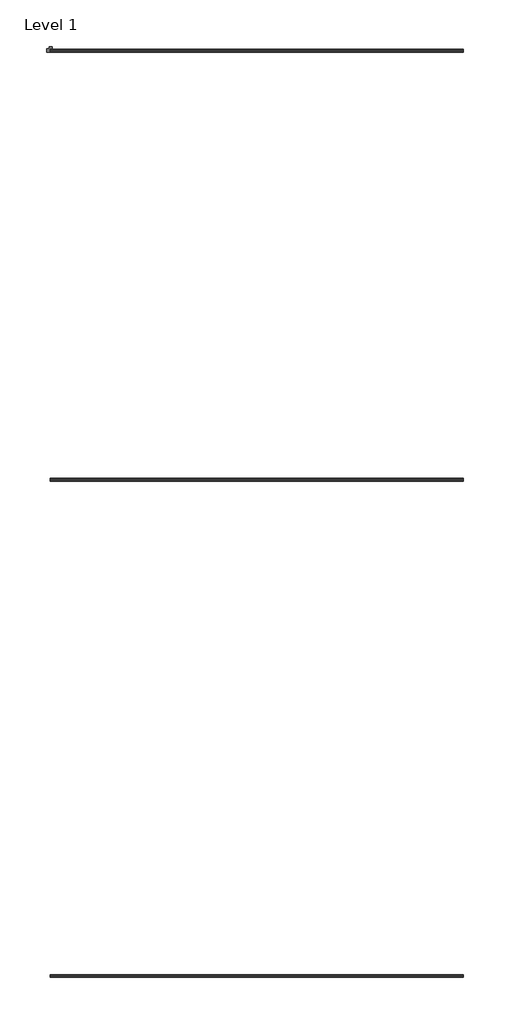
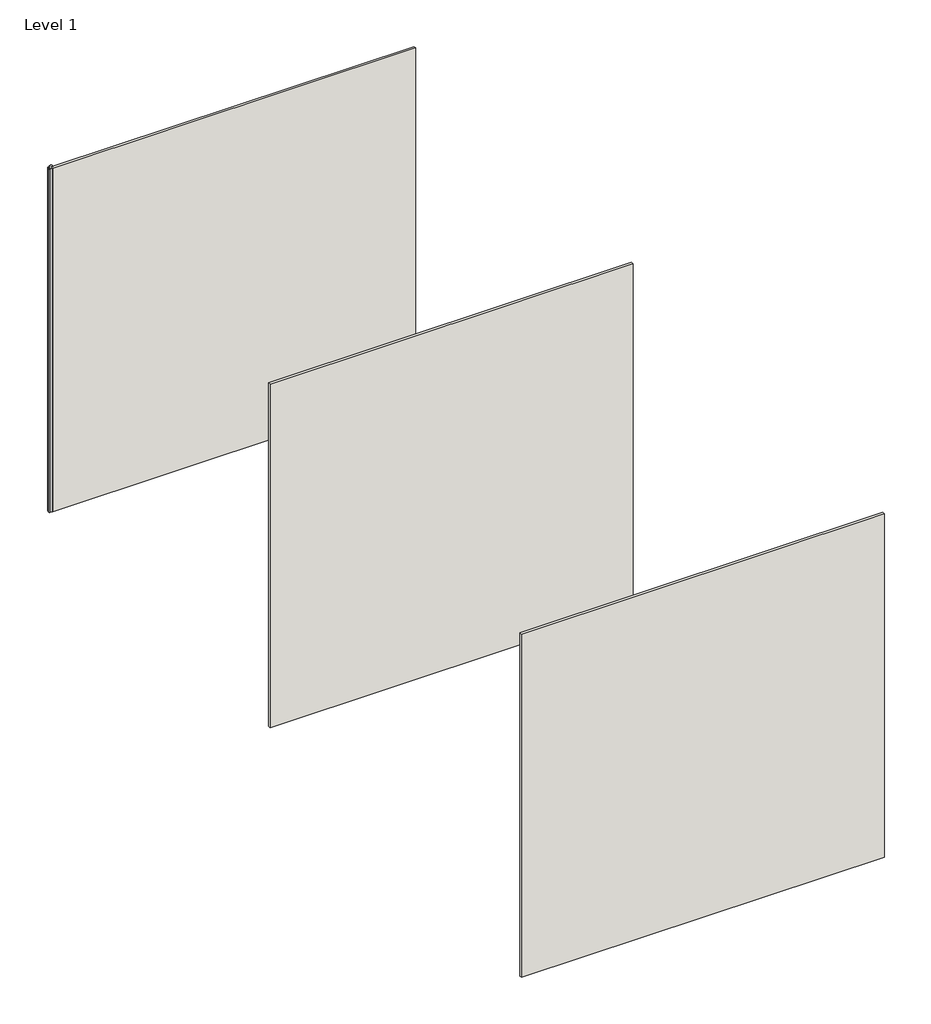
# One storey: 3 walls, 1 proxy.
"""IFC4 building model written with IfcOpenShell, lengths in millimetres."""

from ifc_helpers import new_model, si_unit, point, frame_2d, origin, origin_with_axes, place, context, project, spatial, polyline, circle_curve, trimmed, segment, composite_curve, outline, extrude, faceted_brep, element, save

model = new_model("IFC4")

# Units and contexts
model_context = context("Model", 3, world=origin())
ifc_project = project(units=[si_unit("LENGTHUNIT", "METRE", prefix="MILLI")], contexts=[model_context])

# Site, building, storey
site = spatial("IfcSite", under=ifc_project)
building = spatial("IfcBuilding", under=site)
storey = spatial("IfcBuildingStorey", under=building, Name="Level 1", Elevation=0.0)

# Proxy
placement = place(None, origin())
element("IfcBuildingElementProxy", 1, Name="Wall_Sweep_Profile-Thermory-Spruce-CP3", ObjectType="Wall_Sweep_Profile-Thermory-Spruce-CP3", at=placement, inside=storey, context=model_context, shape_type="SweptSolid", body=[
    extrude(outline(composite_curve([segment(trimmed(circle_curve(frame_2d((-180.710727, 5582.4226999)), 7.0), [point((-180.710727, 5575.4226999))], [point((-187.710727, 5582.4226999))], False, "CARTESIAN"), True, "CONTINUOUS"), segment(polyline([(-187.710727, 5582.4226999), (-187.710727, 5601.4226999)]), True, "CONTINUOUS"), segment(trimmed(circle_curve(frame_2d((-186.2107271, 5601.4226999)), 1.5), [point((-187.710727, 5601.4226999))], [point((-186.2107271, 5602.9226998))], False, "CARTESIAN"), True, "CONTINUOUS"), segment(polyline([(-186.2107271, 5602.9226998), (-167.210727, 5602.9226998), (-167.210727, 5615.9226999)]), True, "CONTINUOUS"), segment(trimmed(circle_curve(frame_2d((-165.710727, 5615.9226999)), 1.5), [point((-167.210727, 5615.9226999))], [point((-165.710727, 5617.4226999))], False, "CARTESIAN"), True, "CONTINUOUS"), segment(polyline([(-165.710727, 5617.4226999), (-152.710727, 5617.4226999)]), True, "CONTINUOUS"), segment(trimmed(circle_curve(frame_2d((-152.710727, 5610.4226999)), 7.0), [point((-152.710727, 5617.4226999))], [point((-145.710727, 5610.4226999))], False, "CARTESIAN"), True, "CONTINUOUS"), segment(polyline([(-145.710727, 5610.4226999), (-145.710727, 5597.4226999)]), True, "CONTINUOUS"), segment(trimmed(circle_curve(frame_2d((-147.210727, 5597.4226999)), 1.5), [point((-145.710727, 5597.4226999))], [point((-147.210727, 5595.9226999))], False, "CARTESIAN"), True, "CONTINUOUS"), segment(polyline([(-147.210727, 5595.9226999), (-160.210727, 5595.9226999), (-160.210727, 5576.9226999)]), True, "CONTINUOUS"), segment(trimmed(circle_curve(frame_2d((-161.710727, 5576.9226999)), 1.5), [point((-160.210727, 5576.9226999))], [point((-161.710727, 5575.4226999))], False, "CARTESIAN"), True, "CONTINUOUS"), segment(polyline([(-161.710727, 5575.4226999), (-180.710727, 5575.4226999)]), True, "CONTINUOUS")], self_intersect=False)), origin_with_axes(), (0.0, 0.0, 1.0), 3048.0),
])

# Walls
element("IfcWall", 2, ObjectType="Wood Siding - Thermory - Spruce Cladding 20/12x185 C11-S - Smooth", at=placement, inside=storey, context=model_context, shape_type="SweptSolid", body=[
    extrude(outline(polyline([(2887.789273, -1241.6773001), (-160.210727, -1241.6773001), (-160.210727, -1221.6773001), (2887.789273, -1221.6773001), (2887.789273, -1241.6773001)])), origin_with_axes(), (0.0, 0.0, 1.0), 3048.0),
])
element("IfcWall", 3, ObjectType="Wood Siding - Thermory - Spruce Cladding 20x185 C15 - Smooth", at=placement, inside=storey, context=model_context, shape_type="SweptSolid", body=[
    extrude(outline(polyline([(2887.789273, 2415.9226999), (-160.210727, 2415.9226999), (-160.210727, 2435.9226999), (2887.789273, 2435.9226999), (2887.789273, 2415.9226999)])), origin_with_axes(), (0.0, 0.0, 1.0), 3048.0),
])
element("IfcWall", 4, ObjectType="Wood Siding - Thermory - Spruce Cladding 20x185 C15 - Smooth", at=placement, inside=storey, context=model_context, shape_type="Brep", body=[
    faceted_brep([(-160.210727, 5575.9226999, 0.0), (2887.789273, 5575.9226999, 0.0), (2887.789273, 5575.9226999, 3048.0), (-160.210727, 5575.9226999, 3048.0), (2887.789273, 5595.9226999, 3048.0), (2887.789273, 5595.9226999, 0.0), (-147.210727, 5595.9226999, 0.0), (-160.210727, 5595.9226999, 0.0), (-160.210727, 5595.9226999, 3048.0), (-147.210727, 5595.9226999, 3048.0), (-160.210727, 5576.9226999, 0.0), (-160.210727, 5576.9226999, 3048.0)], [[[0, 1, 2, 3]], [[4, 5, 6, 7, 8, 9]], [[1, 0, 10, 7, 6, 5]], [[2, 1, 5, 4]], [[3, 2, 4, 9, 8, 11]], [[0, 3, 11, 8, 7, 10]]]),
])

save(model, "model.ifc")
